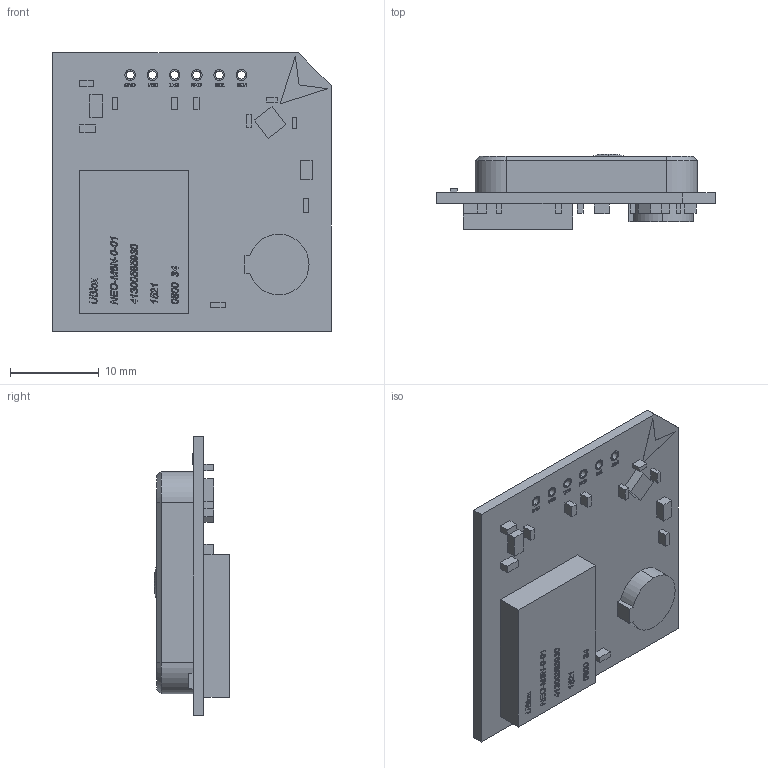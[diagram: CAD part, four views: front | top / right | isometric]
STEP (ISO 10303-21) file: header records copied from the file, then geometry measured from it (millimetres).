
FILE_DESCRIPTION (( 'STEP AP214' ), '1' );
FILE_NAME ('Ìîäóëü GPS Ublox NEO-M8N-0-01.STEP', '2017-06-30T04:32:39', ( 'Ðîìàí' ), ( '' ), 'SwSTEP 2.0', 'SolidWorks 2016', '' );
FILE_SCHEMA (( 'AUTOMOTIVE_DESIGN' ));
Length unit declared in the file: millimetre
Products named in the file (1): 沓劌錪 GPS Ublox NEO-M8N-0-01
Bounding box: 31.3 x 8.44 x 31.3 mm (x, y, z)
Volume: 4341.8 mm3; surface area: 3981.6 mm2
Topology: 2 solids, 2 shells, 1020 faces, 2701 edges, 1798 vertices
Faces by surface type: plane 495, bspline 476, cylinder 43, cone 6
Entity records: 54782 total; most frequent: CARTESIAN_POINT 30812, ORIENTED_EDGE 5402, DIRECTION 2933, EDGE_CURVE 2701, VERTEX_POINT 1798, LINE 1655, VECTOR 1655, EDGE_LOOP 1145
